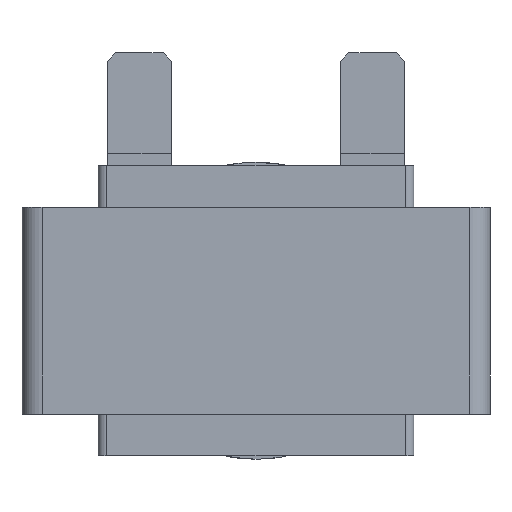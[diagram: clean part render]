
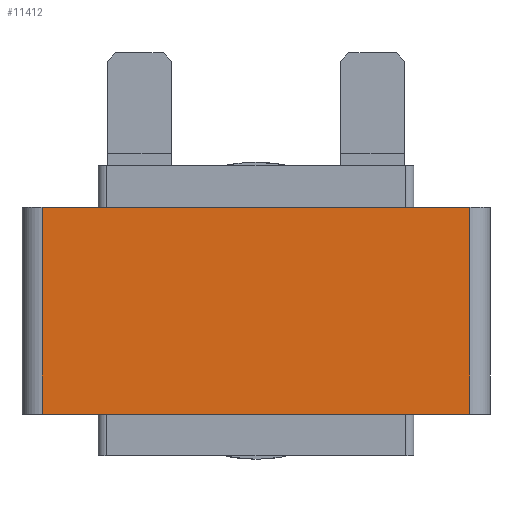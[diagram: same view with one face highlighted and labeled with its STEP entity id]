
A CAD part, front view. The second image highlights one B-rep face of the part: STEP entity #11412.
In plain terms, the highlighted planar face has unit normal (0, -1, 0).
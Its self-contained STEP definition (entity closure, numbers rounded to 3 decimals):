
#283 = CARTESIAN_POINT ( 'NONE',  ( 25.43, -11.791, 12.3 ) ) ;
#1066 = FACE_OUTER_BOUND ( 'NONE', #5924, .T. ) ;
#1636 = CARTESIAN_POINT ( 'NONE',  ( 25.43, -11.791, 12.3 ) ) ;
#1817 = CARTESIAN_POINT ( 'NONE',  ( -25.43, -11.791, 12.3 ) ) ;
#1839 = ORIENTED_EDGE ( 'NONE', *, *, #15533, .F. ) ;
#2068 = ORIENTED_EDGE ( 'NONE', *, *, #16766, .F. ) ;
#2956 = VECTOR ( 'NONE', #12313, 1000. ) ;
#3099 = VERTEX_POINT ( 'NONE', #5982 ) ;
#4537 = ORIENTED_EDGE ( 'NONE', *, *, #14183, .T. ) ;
#4752 = VERTEX_POINT ( 'NONE', #16067 ) ;
#5256 = VECTOR ( 'NONE', #10845, 1000. ) ;
#5275 = DIRECTION ( 'NONE',  ( 0., 1., 0. ) ) ;
#5660 = LINE ( 'NONE', #1817, #5256 ) ;
#5794 = VERTEX_POINT ( 'NONE', #283 ) ;
#5924 = EDGE_LOOP ( 'NONE', ( #4537, #1839, #2068, #15206 ) ) ;
#5982 = CARTESIAN_POINT ( 'NONE',  ( -25.43, -11.791, 12.3 ) ) ;
#6541 = PLANE ( 'NONE',  #8853 ) ;
#7539 = VECTOR ( 'NONE', #8147, 1000. ) ;
#7780 = VERTEX_POINT ( 'NONE', #16636 ) ;
#8147 = DIRECTION ( 'NONE',  ( 0., 0., -1. ) ) ;
#8338 = EDGE_CURVE ( 'NONE', #3099, #4752, #10486, .T. ) ;
#8853 = AXIS2_PLACEMENT_3D ( 'NONE', #13008, #5275, #14301 ) ;
#9831 = LINE ( 'NONE', #14972, #2956 ) ;
#10486 = LINE ( 'NONE', #13321, #16756 ) ;
#10544 = DIRECTION ( 'NONE',  ( 0., 0., -1. ) ) ;
#10845 = DIRECTION ( 'NONE',  ( 1., 0., 0. ) ) ;
#11412 = ADVANCED_FACE ( 'NONE', ( #1066 ), #6541, .F. ) ;
#12313 = DIRECTION ( 'NONE',  ( 1., 0., 0. ) ) ;
#12981 = LINE ( 'NONE', #1636, #7539 ) ;
#13008 = CARTESIAN_POINT ( 'NONE',  ( -25.43, -11.791, 12.3 ) ) ;
#13321 = CARTESIAN_POINT ( 'NONE',  ( -25.43, -11.791, 12.3 ) ) ;
#14183 = EDGE_CURVE ( 'NONE', #4752, #7780, #9831, .T. ) ;
#14301 = DIRECTION ( 'NONE',  ( 0., 0., 1. ) ) ;
#14972 = CARTESIAN_POINT ( 'NONE',  ( -25.43, -11.791, -12.3 ) ) ;
#15206 = ORIENTED_EDGE ( 'NONE', *, *, #8338, .T. ) ;
#15533 = EDGE_CURVE ( 'NONE', #5794, #7780, #12981, .T. ) ;
#16067 = CARTESIAN_POINT ( 'NONE',  ( -25.43, -11.791, -12.3 ) ) ;
#16636 = CARTESIAN_POINT ( 'NONE',  ( 25.43, -11.791, -12.3 ) ) ;
#16756 = VECTOR ( 'NONE', #10544, 1000. ) ;
#16766 = EDGE_CURVE ( 'NONE', #3099, #5794, #5660, .T. ) ;
